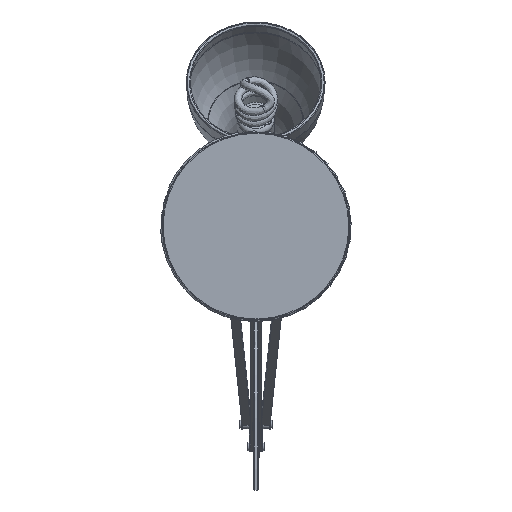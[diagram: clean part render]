
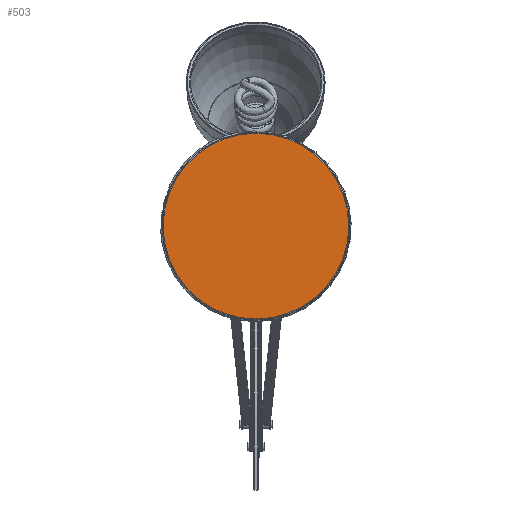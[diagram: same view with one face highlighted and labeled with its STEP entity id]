
A CAD part, front view. The second image highlights one B-rep face of the part: STEP entity #503.
In plain terms, the highlighted planar face has unit normal (0, -1, 0).
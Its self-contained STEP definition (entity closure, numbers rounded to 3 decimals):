
#503 = ADVANCED_FACE ( 'NONE', ( #11006 ), #38032, .F. ) ;
#10213 = CARTESIAN_POINT ( 'NONE',  ( -44.68, -339.357, 85.966 ) ) ;
#11006 = FACE_OUTER_BOUND ( 'NONE', #36748, .T. ) ;
#11037 = ORIENTED_EDGE ( 'NONE', *, *, #22665, .T. ) ;
#13812 = DIRECTION ( 'NONE',  ( 0., 0., 1. ) ) ;
#16371 = DIRECTION ( 'NONE',  ( 0., 1., 0. ) ) ;
#22665 = EDGE_CURVE ( 'NONE', #39126, #39126, #25962, .T. ) ;
#25962 = CIRCLE ( 'NONE', #44051, 94.75 ) ;
#31667 = AXIS2_PLACEMENT_3D ( 'NONE', #45144, #16371, #41672 ) ;
#35414 = DIRECTION ( 'NONE',  ( 0., -1., 0. ) ) ;
#36748 = EDGE_LOOP ( 'NONE', ( #11037 ) ) ;
#38032 = PLANE ( 'NONE',  #31667 ) ;
#39126 = VERTEX_POINT ( 'NONE', #41264 ) ;
#41264 = CARTESIAN_POINT ( 'NONE',  ( -44.68, -339.357, 180.716 ) ) ;
#41672 = DIRECTION ( 'NONE',  ( 0., 0., 1. ) ) ;
#44051 = AXIS2_PLACEMENT_3D ( 'NONE', #10213, #35414, #13812 ) ;
#45144 = CARTESIAN_POINT ( 'NONE',  ( -44.68, -339.357, 85.966 ) ) ;
